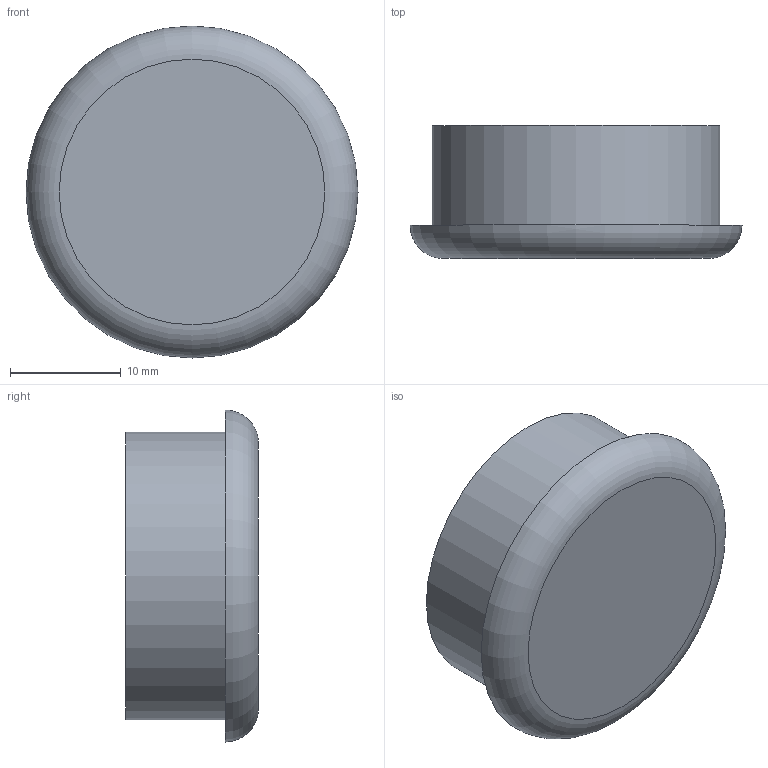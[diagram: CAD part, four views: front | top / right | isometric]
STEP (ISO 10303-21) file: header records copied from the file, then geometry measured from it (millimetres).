
FILE_DESCRIPTION (( 'STEP AP214' ), '1' );
FILE_NAME ('L21116.step', '2024-12-03T16:25:09', ( '' ), ( '' ), 'SwSTEP 2.0', 'SolidWorks 2023', '' );
FILE_SCHEMA (( 'AUTOMOTIVE_DESIGN' ));
Length unit declared in the file: millimetre
Products named in the file (1): L21116
Bounding box: 30 x 12 x 30 mm (x, y, z)
Volume: 2788.1 mm3; surface area: 2973.5 mm2
Topology: 1 solids, 1 shells, 7 faces, 9 edges, 6 vertices
Faces by surface type: plane 4, cylinder 2, torus 1
Full cylindrical faces by diameter (mm): 23.6 x1, 26 x1
Entity records: 157 total; most frequent: DIRECTION 28, CARTESIAN_POINT 20, AXIS2_PLACEMENT_3D 14, EDGE_LOOP 12, ORIENTED_EDGE 12, FACE_OUTER_BOUND 10, ADVANCED_FACE 7, CIRCLE 6
